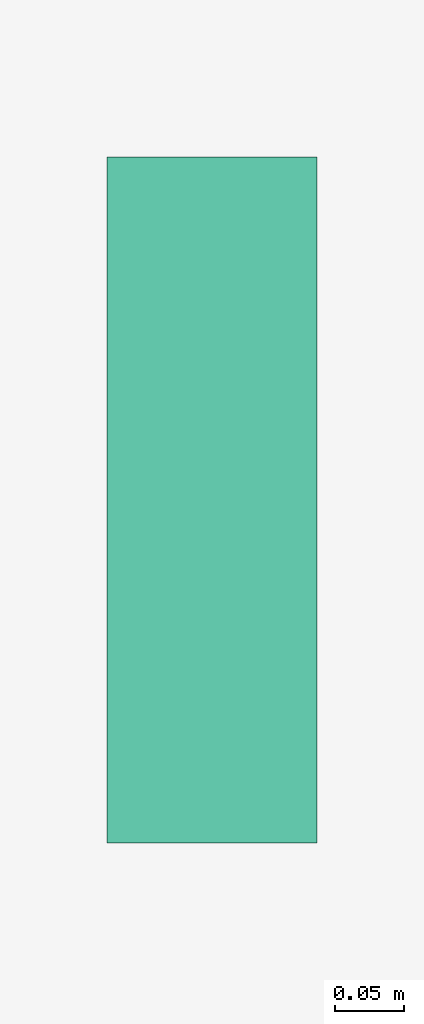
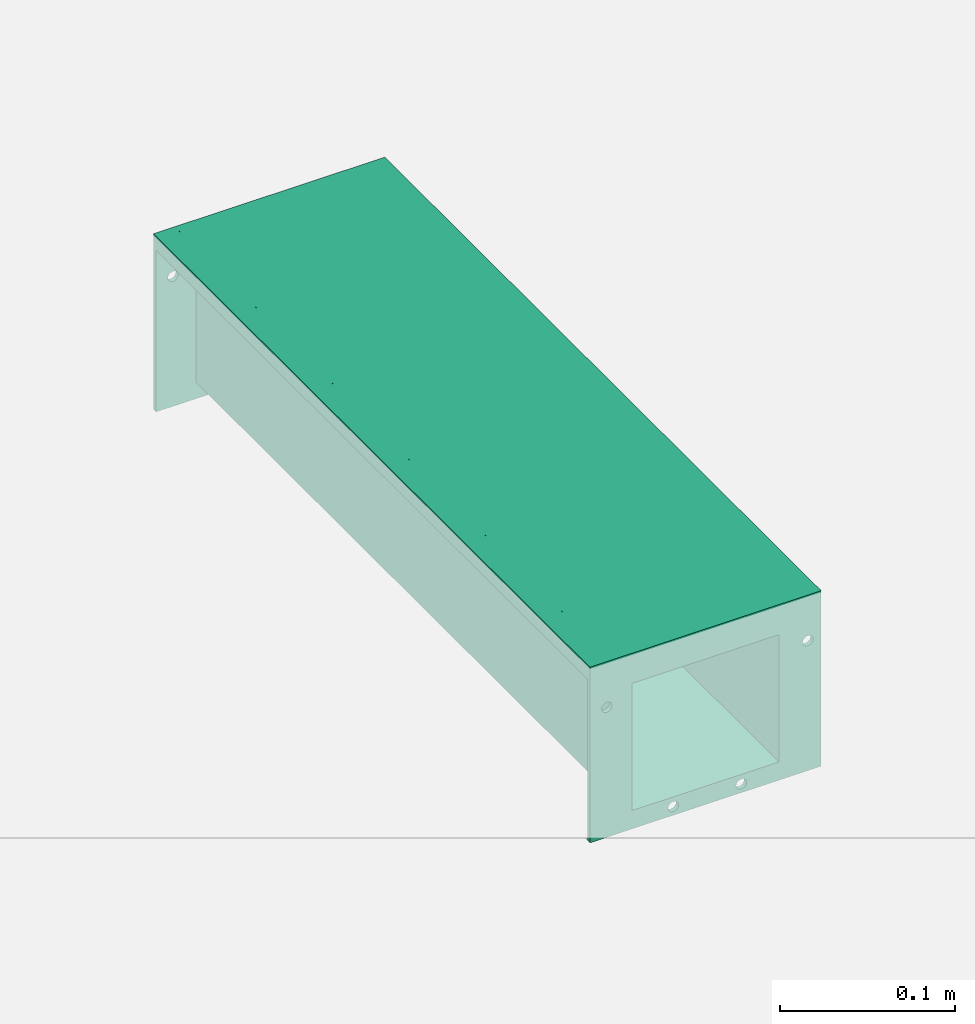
# One storey, part 2 of 2: 1 flow terminal.
"""IFC2X3 building model written with IfcOpenShell, lengths in millimetres."""

from ifc_helpers import new_model, entity, si_unit, converted_unit, direction, frame, frame_2d, origin, origin_2d_with_axis, place, context, subcontext, project, spatial, polyline, circle_curve, parameter, trimmed, segment, composite_curve, rectangle, outline, extrude, source, transform, mapped, material, material_list, element, save


model = new_model("IFC2X3")

# Units and contexts
model_context = context("Model", 3, precision=1e-06, world=origin(), true_north=direction((2.0, 6.12303176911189e-17, 1.0)))
context_of_model = context(None, 3, precision=1e-06, world=origin(), true_north=direction((2.0, 6.12303176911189e-17, 1.0)))
body_context = subcontext(model_context, "Body", "Model", "MODEL_VIEW")
ifc_project = project(units=[si_unit("LENGTHUNIT", "METRE", prefix="MILLI"), si_unit("AREAUNIT", "SQUARE_METRE", prefix="MILLI"), si_unit("VOLUMEUNIT", "CUBIC_METRE", prefix="MILLI"), converted_unit("PLANEANGLEUNIT", "DEGREE", entity("IfcRatioMeasure", 0.0174532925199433), si_unit("PLANEANGLEUNIT", "RADIAN"), dimensions=[0, 0, 0, 0, 0, 0, 0]), si_unit("TIMEUNIT", "SECOND")], contexts=[model_context, context_of_model])

# Site, building, storey
site_placement = place(None, origin())
site = spatial("IfcSite", under=ifc_project, at=site_placement, Name="Default", CompositionType="ELEMENT")
building_placement = place(site_placement, origin())
building = spatial("IfcBuilding", under=site, at=building_placement, CompositionType="ELEMENT")
storey_placement = place(building_placement, origin())
storey = spatial("IfcBuildingStorey", under=building, at=storey_placement, Name="Level 1", CompositionType="ELEMENT", Elevation=0.0)

# Flow terminal
ifc_material_1 = material(Name="Stainless Steel AISI 304")
ifc_material_2 = material(Name="Polystyrene, High Impact (F)")
ifc_material_list = material_list([ifc_material_1, ifc_material_2])
shared_shape = source(origin(), body_context, "Body", "SweptSolid", [
    extrude(rectangle(XDim=500.0, YDim=124.999917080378, at=origin_2d_with_axis()), frame((4.14598109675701e-05, 250.0, -21.0), z_axis=(0.0, 0.0, 1.0), x_axis=(0.0, 1.0, 0.0)), (0.0, 0.0, 1.0), 20.9999999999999),
    extrude(outline(polyline([(-76.5000276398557, -45.8000000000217), (-62.4999447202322, -45.8000000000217), (-62.4999447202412, -24.8000000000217), (-48.4999447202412, -24.8000000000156), (-48.4999447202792, 64.1999999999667), (48.4999723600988, 64.2000000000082), (48.4999723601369, -24.7999999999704), (62.4999723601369, -24.7999999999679), (62.4999723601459, -45.7999999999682), (76.499972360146, -45.7999999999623), (76.4999723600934, 77.0), (-76.5000276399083, 77.0), (-76.5000276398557, -45.8000000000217)]), holes=[composite_curve([segment(trimmed(circle_curve(frame_2d((67.7349848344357, -13.9014274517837), x_axis=(1.0, 0.0)), 3.5), [parameter(0.0)], [parameter(180.0)], True, "PARAMETER"), False, "CONTINUOUS"), segment(trimmed(circle_curve(frame_2d((67.7349848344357, -13.9014274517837), x_axis=(1.0, 0.0)), 3.5), [parameter(180.0)], [parameter(360.0)], True, "PARAMETER"), False, "CONTINUOUS")], self_intersect=False), composite_curve([segment(trimmed(circle_curve(frame_2d((23.7349848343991, 70.9218749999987), x_axis=(1.0, 0.0)), 3.5), [parameter(0.0)], [parameter(180.0)], True, "PARAMETER"), False, "CONTINUOUS"), segment(trimmed(circle_curve(frame_2d((23.7349848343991, 70.9218749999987), x_axis=(1.0, 0.0)), 3.5), [parameter(180.0)], [parameter(0.0)], True, "PARAMETER"), False, "CONTINUOUS")], self_intersect=False), composite_curve([segment(trimmed(circle_curve(frame_2d((-21.2650151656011, 70.9218749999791), x_axis=(1.0, 0.0)), 3.5), [parameter(179.999999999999)], [parameter(360.0)], True, "PARAMETER"), False, "CONTINUOUS"), segment(trimmed(circle_curve(frame_2d((-21.2650151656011, 70.9218749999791), x_axis=(1.0, 0.0)), 3.5), [parameter(360.0)], [parameter(180.0)], True, "PARAMETER"), False, "CONTINUOUS")], self_intersect=False), composite_curve([segment(trimmed(circle_curve(frame_2d((-65.265015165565, -13.9014274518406), x_axis=(1.0, 0.0)), 3.5), [parameter(179.999999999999)], [parameter(360.0)], True, "PARAMETER"), False, "CONTINUOUS"), segment(trimmed(circle_curve(frame_2d((-65.265015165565, -13.9014274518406), x_axis=(1.0, 0.0)), 3.5), [parameter(0.0)], [parameter(180.0)], True, "PARAMETER"), False, "CONTINUOUS")], self_intersect=False)]), frame((2.7639875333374e-05, 497.0, -45.8000000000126), z_axis=(0.0, 1.0, 0.0), x_axis=(1.0, 0.0, 0.0)), (0.0, 0.0, 1.0), 2.99999999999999),
    extrude(outline(polyline([(-76.4999585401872, -45.80000137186), (-62.4999585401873, -45.80000137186), (-62.4999585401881, -24.8000013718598), (-48.499958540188, -24.8000013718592), (-48.4999585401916, 64.1999986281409), (48.4999585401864, 64.1999986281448), (48.49995854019, -24.8000013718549), (62.49995854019, -24.8000013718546), (62.4999585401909, -45.800001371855), (76.4999585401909, -45.8000013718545), (76.499958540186, 77.0000068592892), (-76.4999585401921, 77.0000068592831), (-76.4999585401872, -45.80000137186)]), holes=[composite_curve([segment(trimmed(circle_curve(frame_2d((67.734971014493, -13.9014288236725), x_axis=(1.0, 0.0)), 3.5), [parameter(0.0)], [parameter(180.0)], True, "PARAMETER"), False, "CONTINUOUS"), segment(trimmed(circle_curve(frame_2d((67.734971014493, -13.9014288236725), x_axis=(1.0, 0.0)), 3.5), [parameter(180.0)], [parameter(360.0)], True, "PARAMETER"), False, "CONTINUOUS")], self_intersect=False), composite_curve([segment(trimmed(circle_curve(frame_2d((23.7349710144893, 70.9218818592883), x_axis=(1.0, 0.0)), 3.5), [parameter(0.0)], [parameter(180.0)], True, "PARAMETER"), False, "CONTINUOUS"), segment(trimmed(circle_curve(frame_2d((23.7349710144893, 70.9218818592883), x_axis=(1.0, 0.0)), 3.5), [parameter(180.0)], [parameter(359.999999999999)], True, "PARAMETER"), False, "CONTINUOUS")], self_intersect=False), composite_curve([segment(trimmed(circle_curve(frame_2d((-21.2650289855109, 70.9218818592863), x_axis=(1.0, 0.0)), 3.5), [parameter(180.0)], [parameter(360.0)], True, "PARAMETER"), False, "CONTINUOUS"), segment(trimmed(circle_curve(frame_2d((-21.2650289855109, 70.9218818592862), x_axis=(1.0, 0.0)), 3.5), [parameter(360.0)], [parameter(180.0)], True, "PARAMETER"), False, "CONTINUOUS")], self_intersect=False), composite_curve([segment(trimmed(circle_curve(frame_2d((-65.2650289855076, -13.9014288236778), x_axis=(1.0, 0.0)), 3.5), [parameter(180.0)], [parameter(0.0)], True, "PARAMETER"), False, "CONTINUOUS"), segment(trimmed(circle_curve(frame_2d((-65.2650289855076, -13.9014288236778), x_axis=(1.0, 0.0)), 3.5), [parameter(0.0)], [parameter(180.0)], True, "PARAMETER"), False, "CONTINUOUS")], self_intersect=False)]), frame((4.14598109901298e-05, 0.0, -45.8000013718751), z_axis=(0.0, 1.0, 0.0), x_axis=(1.0, 0.0, 0.0)), (0.0, 0.0, 1.0), 3.0),
    extrude(outline(polyline([(-27.6243423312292, -62.4999585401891), (-27.6243423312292, -76.499958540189), (-17.6243423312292, -76.499958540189), (-17.6243423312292, -74.999958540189), (-26.1243423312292, -74.999958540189), (-26.1243423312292, -63.9999585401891), (-5.12434233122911, -63.9999585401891), (-5.12434233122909, -49.999958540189), (83.8717116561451, -49.999958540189), (83.8717116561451, 49.999958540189), (-5.12434233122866, 49.999958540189), (-5.12434233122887, 63.999958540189), (-26.124342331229, 63.9999585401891), (-26.1243423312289, 74.9999585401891), (-17.6243423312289, 74.9999585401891), (-17.6243423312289, 76.4999585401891), (-27.6243423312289, 76.4999585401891), (-27.624342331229, 62.4999585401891), (-6.62434233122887, 62.499958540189), (-6.62434233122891, 48.499958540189), (82.3717116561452, 48.499958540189), (82.3717116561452, -48.499958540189), (-6.62434233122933, -48.499958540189), (-6.62434233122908, -62.4999585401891), (-27.6243423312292, -62.4999585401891)])), frame((4.14598110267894e-05, 3.0, -27.6282883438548), z_axis=(0.0, -1.0, 0.0), x_axis=(0.0, 0.0, -1.0)), (0.0, 0.0, -1.0), 494.0),
    extrude(rectangle(XDim=497.0, YDim=11.0, at=origin_2d_with_axis()), frame((69.5000000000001, 251.5, -10.0), z_axis=(0.0, 0.0, 1.0), x_axis=(0.0, 1.0, 0.0)), (0.0, 0.0, 1.0), 8.50000000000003),
    extrude(rectangle(XDim=497.0, YDim=10.9999999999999, at=origin_2d_with_axis()), frame((-69.499917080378, 251.5, -10.0), z_axis=(0.0, 0.0, 1.0), x_axis=(0.0, 1.0, 0.0)), (0.0, 0.0, 1.0), 8.50000000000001),
])
flow_terminal_placement = place(storey_placement, frame((-147.883287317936, -204.664192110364, 0.0)))
element("IfcFlowTerminal", 1, at=flow_terminal_placement, inside=storey, material=ifc_material_list, Name="ACO BD Modular 125 Level Invert Straight Channels:105123 - Straight Channel - 500mm LG - Invert Depth 110mm:105123 - Straight Channel - 500mm LG - Invert Depth 110mm", ObjectType="105123 - Straight Channel - 500mm LG - Invert Depth 110mm", context=body_context, shape_type="MappedRepresentation", body=[
    mapped(shared_shape, transform((0.0, 0.0, 0.0), scale=1.0)),
])

save(model, "model.ifc")
